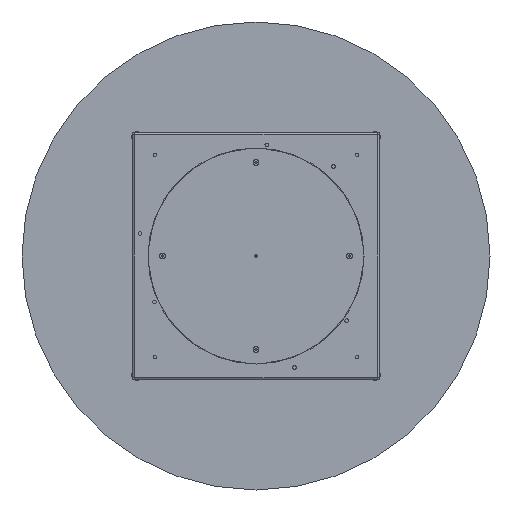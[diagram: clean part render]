
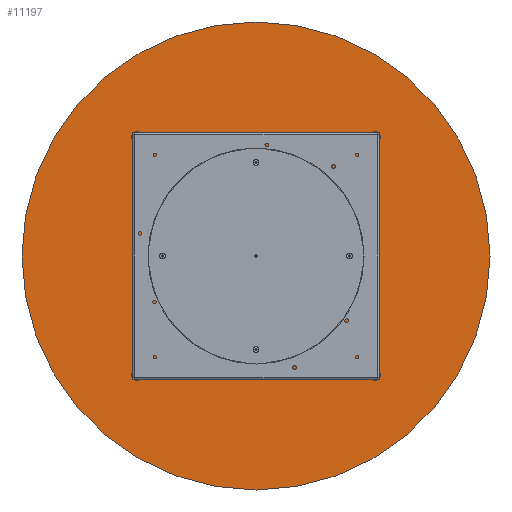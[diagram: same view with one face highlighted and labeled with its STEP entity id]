
A CAD part, front view. The second image highlights one B-rep face of the part: STEP entity #11197.
In plain terms, the highlighted planar face has unit normal (0, -1, 0).
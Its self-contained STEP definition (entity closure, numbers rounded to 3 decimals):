
#604 = FACE_OUTER_BOUND ( 'NONE', #4368, .T. ) ;
#1175 = DIRECTION ( 'NONE',  ( 0., -1., 0. ) ) ;
#1480 = AXIS2_PLACEMENT_3D ( 'NONE', #7937, #2697, #1570 ) ;
#1570 = DIRECTION ( 'NONE',  ( 0., 0., -1. ) ) ;
#2517 = EDGE_CURVE ( 'NONE', #8763, #5464, #3943, .T. ) ;
#2697 = DIRECTION ( 'NONE',  ( 0., -1., 0. ) ) ;
#3943 = CIRCLE ( 'NONE', #1480, 650. ) ;
#4368 = EDGE_LOOP ( 'NONE', ( #12766, #4963 ) ) ;
#4853 = DIRECTION ( 'NONE',  ( 0., -1., 0. ) ) ;
#4963 = ORIENTED_EDGE ( 'NONE', *, *, #2517, .T. ) ;
#5464 = VERTEX_POINT ( 'NONE', #7988 ) ;
#6841 = AXIS2_PLACEMENT_3D ( 'NONE', #6910, #4853, #8039 ) ;
#6910 = CARTESIAN_POINT ( 'NONE',  ( 0., 0., 0. ) ) ;
#7937 = CARTESIAN_POINT ( 'NONE',  ( 0., 0., 0. ) ) ;
#7988 = CARTESIAN_POINT ( 'NONE',  ( 0., 0., -650. ) ) ;
#8039 = DIRECTION ( 'NONE',  ( 0., 0., -1. ) ) ;
#8233 = EDGE_CURVE ( 'NONE', #5464, #8763, #10169, .T. ) ;
#8666 = CARTESIAN_POINT ( 'NONE',  ( 0., 0., 0. ) ) ;
#8721 = CARTESIAN_POINT ( 'NONE',  ( 0., 0., 650. ) ) ;
#8763 = VERTEX_POINT ( 'NONE', #8721 ) ;
#10169 = CIRCLE ( 'NONE', #10844, 650. ) ;
#10844 = AXIS2_PLACEMENT_3D ( 'NONE', #8666, #1175, #13199 ) ;
#11197 = ADVANCED_FACE ( 'NONE', ( #604 ), #12147, .T. ) ;
#12147 = PLANE ( 'NONE',  #6841 ) ;
#12766 = ORIENTED_EDGE ( 'NONE', *, *, #8233, .T. ) ;
#13199 = DIRECTION ( 'NONE',  ( 0., 0., -1. ) ) ;
